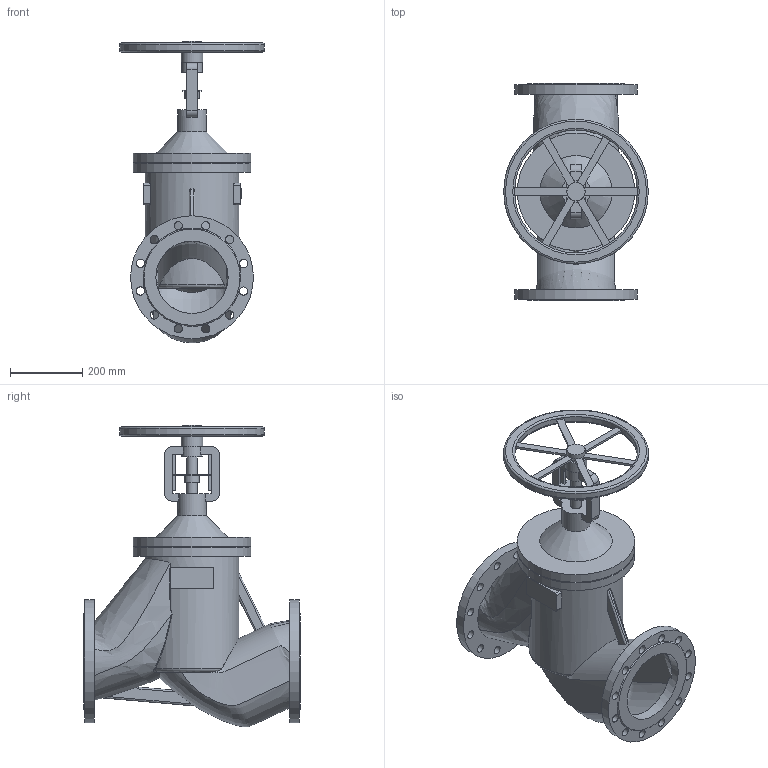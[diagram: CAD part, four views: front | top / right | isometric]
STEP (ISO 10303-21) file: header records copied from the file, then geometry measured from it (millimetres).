
FILE_DESCRIPTION(('STEP AP203'), '1');
FILE_NAME('Êëàïàí çàïîðíî-ðåãóëèðóþùèé BV2F DN200', '2026-09-22T07:52:03', ('Ýíåðãèÿ'), (''), 'ASCON STEP Converter 1.6', 'ASCON Math Kernel', '');
FILE_SCHEMA(('CONFIG_CONTROL_DESIGN'));
Length unit declared in the file: millimetre
Bounding box: 400 x 600 x 834.39 mm (x, y, z)
Volume: 31739695.5 mm3; surface area: 1811664.1 mm2
Topology: 1 solids, 2 shells, 244 faces, 696 edges, 454 vertices
Faces by surface type: plane 123, cylinder 87, bspline 24, torus 7, cone 3
Full cylindrical faces by diameter (mm): 23 x24, 30 x2, 40 x1, 50 x1, 56 x1, 60 x1, 80 x1, 200 x1, 260 x1, 315 x1, 325 x2, 340 x3, 400 x1
Entity records: 27250 total; most frequent: CARTESIAN_POINT 19100, ORIENTED_EDGE 1294, DIRECTION 1168, EDGE_CURVE 647, AXIS2_PLACEMENT_3D 462, VERTEX_POINT 454, EDGE_LOOP 379, FACE_BOUND 310
